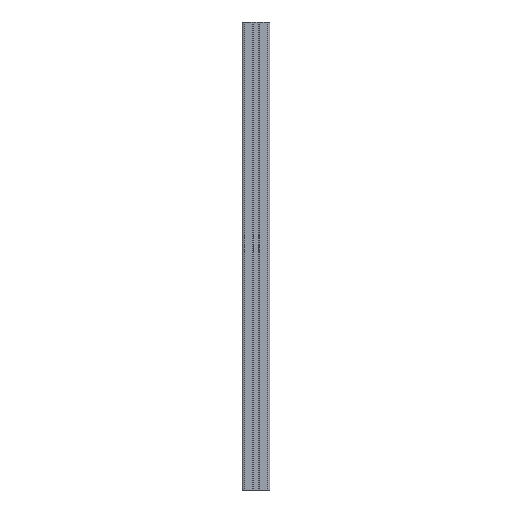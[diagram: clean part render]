
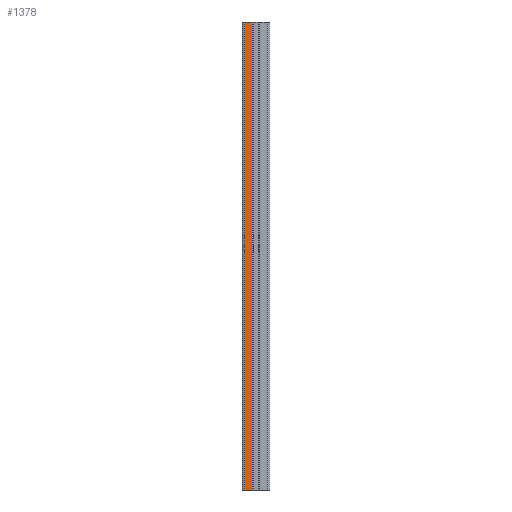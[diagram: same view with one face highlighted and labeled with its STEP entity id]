
A CAD part, left-side view. The second image highlights one B-rep face of the part: STEP entity #1378.
In plain terms, the highlighted planar face has unit normal (-1, 0, 0).
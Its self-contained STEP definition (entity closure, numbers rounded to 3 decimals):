
#645 = EDGE_CURVE ( 'NONE', #698, #700, #2335, .T. ) ;
#698 = VERTEX_POINT ( 'NONE', #2452 ) ;
#700 = VERTEX_POINT ( 'NONE', #2444 ) ;
#1170 = ORIENTED_EDGE ( 'NONE', *, *, #1379, .F. ) ;
#1172 = ORIENTED_EDGE ( 'NONE', *, *, #1309, .T. ) ;
#1220 = VERTEX_POINT ( 'NONE', #3609 ) ;
#1309 = EDGE_CURVE ( 'NONE', #1311, #1220, #3374, .T. ) ;
#1311 = VERTEX_POINT ( 'NONE', #3369 ) ;
#1323 = EDGE_CURVE ( 'NONE', #698, #1311, #3261, .T. ) ;
#1375 = EDGE_LOOP ( 'NONE', ( #1172, #1170, #1382, #1508 ) ) ;
#1378 = ADVANCED_FACE ( 'NONE', ( #3208 ), #3210, .F. ) ;
#1379 = EDGE_CURVE ( 'NONE', #700, #1220, #3203, .T. ) ;
#1382 = ORIENTED_EDGE ( 'NONE', *, *, #645, .F. ) ;
#1508 = ORIENTED_EDGE ( 'NONE', *, *, #1323, .T. ) ;
#2257 = DIRECTION ( 'NONE',  ( 0., -1., 0. ) ) ;
#2258 = VECTOR ( 'NONE', #2257, 1000. ) ;
#2334 = CARTESIAN_POINT ( 'NONE',  ( -23148.971, -19084.325, 500. ) ) ;
#2335 = LINE ( 'NONE', #2334, #2258 ) ;
#2444 = CARTESIAN_POINT ( 'NONE',  ( -23148.971, -19091.983, 500. ) ) ;
#2452 = CARTESIAN_POINT ( 'NONE',  ( -23148.971, -19084.325, 500. ) ) ;
#3197 = DIRECTION ( 'NONE',  ( 0., 0., -1. ) ) ;
#3198 = VECTOR ( 'NONE', #3197, 1000. ) ;
#3200 = DIRECTION ( 'NONE',  ( 0., 0., -1. ) ) ;
#3201 = DIRECTION ( 'NONE',  ( 1., 0., 0. ) ) ;
#3202 = CARTESIAN_POINT ( 'NONE',  ( -23148.971, -19091.983, 500. ) ) ;
#3203 = LINE ( 'NONE', #3202, #3198 ) ;
#3207 = CARTESIAN_POINT ( 'NONE',  ( -23148.971, -19084.325, 500. ) ) ;
#3208 = FACE_OUTER_BOUND ( 'NONE', #1375, .T. ) ;
#3209 = AXIS2_PLACEMENT_3D ( 'NONE', #3207, #3201, #3200 ) ;
#3210 = PLANE ( 'NONE',  #3209 ) ;
#3260 = CARTESIAN_POINT ( 'NONE',  ( -23148.971, -19084.325, 500. ) ) ;
#3261 = LINE ( 'NONE', #3260, #3362 ) ;
#3361 = DIRECTION ( 'NONE',  ( 0., 0., -1. ) ) ;
#3362 = VECTOR ( 'NONE', #3361, 1000. ) ;
#3369 = CARTESIAN_POINT ( 'NONE',  ( -23148.971, -19084.325, 0. ) ) ;
#3372 = DIRECTION ( 'NONE',  ( 0., -1., 0. ) ) ;
#3373 = VECTOR ( 'NONE', #3372, 1000. ) ;
#3374 = LINE ( 'NONE', #3387, #3373 ) ;
#3387 = CARTESIAN_POINT ( 'NONE',  ( -23148.971, -19084.325, 0. ) ) ;
#3609 = CARTESIAN_POINT ( 'NONE',  ( -23148.971, -19091.983, 0. ) ) ;
